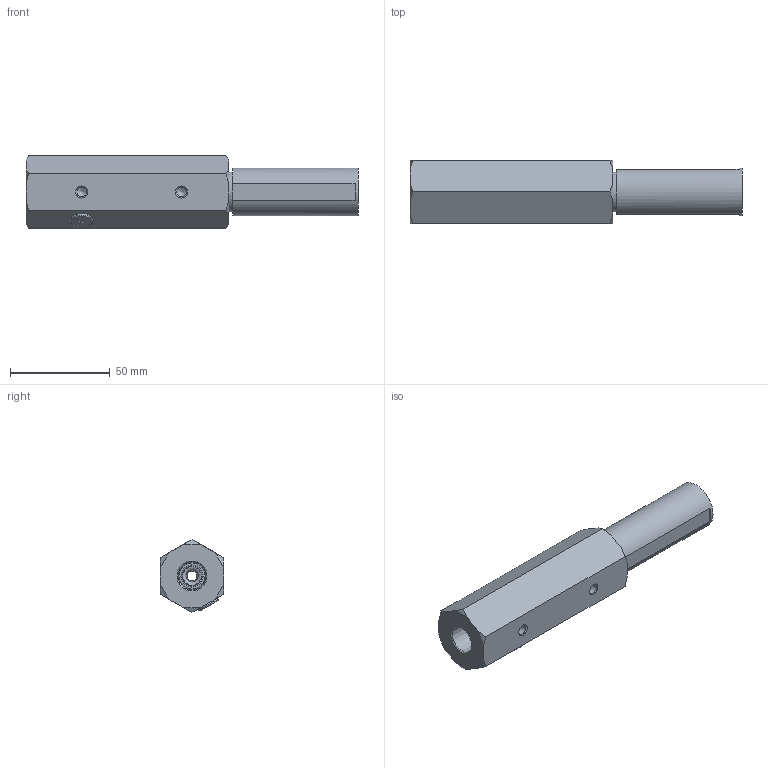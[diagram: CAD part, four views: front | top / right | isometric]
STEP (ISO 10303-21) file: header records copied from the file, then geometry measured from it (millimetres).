
FILE_DESCRIPTION (( 'STEP AP214' ), '1' );
FILE_NAME ('SSV4-NPT.STEP', '2024-09-18T20:04:37', ( '' ), ( '' ), 'SwSTEP 2.0', 'SolidWorks 2018', '' );
FILE_SCHEMA (( 'AUTOMOTIVE_DESIGN' ));
Length unit declared in the file: inch
Products named in the file (3): SIS-002; SSV4-NPT; 1013
Assembly tree (2 placements, depth 2):
  SSV4-NPT
    1013
    SIS-002
Bounding box: 166.4 x 31.75 x 36.66 mm (x, y, z)
Volume: 100164.6 mm3; surface area: 25099.2 mm2
Topology: 2 solids, 2 shells, 71 faces, 174 edges, 115 vertices
Faces by surface type: plane 45, cylinder 13, cone 11, torus 2
Full cylindrical faces by diameter (mm): 4.978 x1, 5 x2, 8.8 x1, 10.058 x1, 11.125 x1, 11.43 x1, 11.7 x1, 14.275 x1, 15 x1, 16.17 x1, 20 x1, 24 x1
Entity records: 2112 total; most frequent: CARTESIAN_POINT 468, DIRECTION 321, ORIENTED_EDGE 264, EDGE_CURVE 132, AXIS2_PLACEMENT_3D 119, EDGE_LOOP 112, VERTEX_POINT 100, FACE_OUTER_BOUND 86
